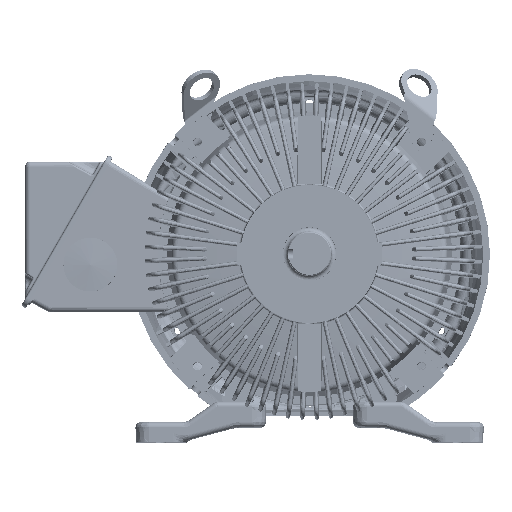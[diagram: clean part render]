
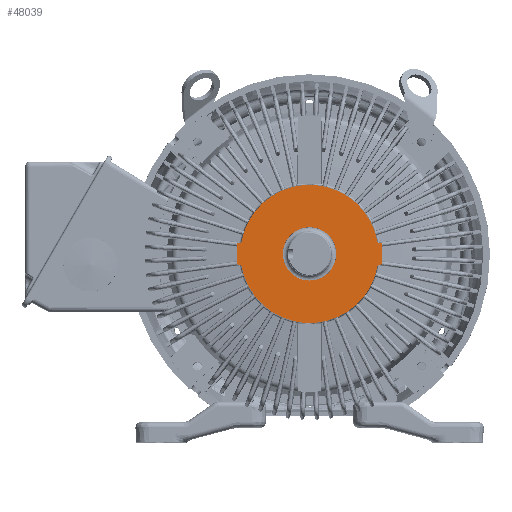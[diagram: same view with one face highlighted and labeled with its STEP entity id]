
A CAD part, top view. The second image highlights one B-rep face of the part: STEP entity #48039.
In plain terms, the highlighted planar face has unit normal (0, 0, 1) as drawn and (0, 0, -1) by its records, which use the part's own axes.
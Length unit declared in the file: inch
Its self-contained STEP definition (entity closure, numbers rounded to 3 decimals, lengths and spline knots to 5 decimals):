
#15194=CARTESIAN_POINT('',(0.,0.,-1.656));
#15195=DIRECTION('',(0.,0.,1.));
#15196=DIRECTION('',(0.,1.,0.));
#15197=AXIS2_PLACEMENT_3D('',#15194,#15195,#15196);
#15199=CARTESIAN_POINT('',(0.,0.,-1.656));
#15200=DIRECTION('',(0.,0.,1.));
#15201=DIRECTION('',(0.,-1.,0.));
#15202=AXIS2_PLACEMENT_3D('',#15199,#15200,#15201);
#15386=CARTESIAN_POINT('',(0.,0.,-1.656));
#15387=DIRECTION('',(0.,0.,-1.));
#15388=DIRECTION('',(-0.987,0.159,0.));
#15389=AXIS2_PLACEMENT_3D('',#15386,#15387,#15388);
#15755=CARTESIAN_POINT('',(0.,0.,-1.656));
#15756=DIRECTION('',(0.,0.,-1.));
#15757=DIRECTION('',(0.987,-0.159,0.));
#15758=AXIS2_PLACEMENT_3D('',#15755,#15756,#15757);
#33701=CARTESIAN_POINT('',(-2.53013,-0.406,
-1.656));
#33703=DIRECTION('',(1.,0.,0.));
#33704=VECTOR('',#33703,0.09487);
#33705=CARTESIAN_POINT('',(-2.625,-0.406,-1.656));
#33706=LINE('',#33705,#33704);
#33755=DIRECTION('',(0.,-1.,0.));
#33756=VECTOR('',#33755,0.687);
#33757=CARTESIAN_POINT('',(-2.688,0.344,-1.656));
#33758=LINE('',#33757,#33756);
#33789=DIRECTION('',(-1.,0.,0.));
#33790=VECTOR('',#33789,0.09503);
#33791=CARTESIAN_POINT('',(-2.52997,0.407,
-1.656));
#33792=LINE('',#33791,#33790);
#33793=CARTESIAN_POINT('',(-2.52997,0.407,
-1.656));
#33817=CARTESIAN_POINT('',(-2.625,0.344,-1.656));
#33818=DIRECTION('',(0.,0.,1.));
#33819=DIRECTION('',(0.,1.,0.));
#33820=AXIS2_PLACEMENT_3D('',#33817,#33818,#33819);
#34173=CARTESIAN_POINT('',(-2.625,-0.343,-1.656));
#34174=DIRECTION('',(0.,0.,1.));
#34175=DIRECTION('',(-1.,0.,0.));
#34176=AXIS2_PLACEMENT_3D('',#34173,#34174,#34175);
#38921=CARTESIAN_POINT('',(2.53013,0.406,
-1.656));
#38923=DIRECTION('',(-1.,0.,0.));
#38924=VECTOR('',#38923,0.09487);
#38925=CARTESIAN_POINT('',(2.625,0.406,-1.656));
#38926=LINE('',#38925,#38924);
#38958=CARTESIAN_POINT('',(2.625,0.343,-1.656));
#38959=DIRECTION('',(0.,0.,1.));
#38960=DIRECTION('',(1.,0.,0.));
#38961=AXIS2_PLACEMENT_3D('',#38958,#38959,#38960);
#38996=DIRECTION('',(0.,-1.,0.));
#38997=VECTOR('',#38996,0.687);
#38998=CARTESIAN_POINT('',(2.688,0.343,-1.656));
#38999=LINE('',#38998,#38997);
#39031=CARTESIAN_POINT('',(2.625,-0.344,-1.656));
#39032=DIRECTION('',(0.,0.,1.));
#39033=DIRECTION('',(0.,-1.,0.));
#39034=AXIS2_PLACEMENT_3D('',#39031,#39032,#39033);
#39050=DIRECTION('',(1.,0.,0.));
#39051=VECTOR('',#39050,0.09503);
#39052=CARTESIAN_POINT('',(2.52997,-0.407,
-1.656));
#39053=LINE('',#39052,#39051);
#39054=CARTESIAN_POINT('',(2.52997,-0.407,
-1.656));
#45004=CARTESIAN_POINT('',(2.688,0.343,-1.656));
#45005=CARTESIAN_POINT('',(2.688,-0.344,-1.656));
#45006=VERTEX_POINT('',#45004);
#45007=VERTEX_POINT('',#45005);
#45008=CARTESIAN_POINT('',(2.625,-0.407,-1.656));
#45009=VERTEX_POINT('',#45008);
#45010=CARTESIAN_POINT('',(2.625,0.406,-1.656));
#45011=VERTEX_POINT('',#45010);
#45012=VERTEX_POINT('',#39054);
#45015=VERTEX_POINT('',#38921);
#45016=CARTESIAN_POINT('',(-2.625,0.407,-1.656));
#45017=CARTESIAN_POINT('',(-2.688,0.344,-1.656));
#45018=VERTEX_POINT('',#45016);
#45019=VERTEX_POINT('',#45017);
#45020=CARTESIAN_POINT('',(-2.688,-0.343,-1.656));
#45021=VERTEX_POINT('',#45020);
#45022=CARTESIAN_POINT('',(-2.625,-0.406,-1.656));
#45023=VERTEX_POINT('',#45022);
#45024=VERTEX_POINT('',#33793);
#45027=VERTEX_POINT('',#33701);
#47934=CARTESIAN_POINT('',(0.,0.99,-1.656));
#47935=CARTESIAN_POINT('',(0.,-0.99,-1.656));
#47936=VERTEX_POINT('',#47934);
#47937=VERTEX_POINT('',#47935);
#48002=CARTESIAN_POINT('',(0.,0.,-1.656));
#48003=DIRECTION('',(0.,0.,-1.));
#48004=DIRECTION('',(0.,-1.,0.));
#48005=AXIS2_PLACEMENT_3D('',#48002,#48003,#48004);
#48006=PLANE('',#48005);
#48008=ORIENTED_EDGE('',*,*,#48007,.F.);
#48010=ORIENTED_EDGE('',*,*,#48009,.T.);
#48012=ORIENTED_EDGE('',*,*,#48011,.T.);
#48014=ORIENTED_EDGE('',*,*,#48013,.T.);
#48016=ORIENTED_EDGE('',*,*,#48015,.T.);
#48018=ORIENTED_EDGE('',*,*,#48017,.T.);
#48020=ORIENTED_EDGE('',*,*,#48019,.F.);
#48022=ORIENTED_EDGE('',*,*,#48021,.T.);
#48024=ORIENTED_EDGE('',*,*,#48023,.T.);
#48026=ORIENTED_EDGE('',*,*,#48025,.F.);
#48028=ORIENTED_EDGE('',*,*,#48027,.T.);
#48030=ORIENTED_EDGE('',*,*,#48029,.T.);
#48031=EDGE_LOOP('',(#48008,#48010,#48012,#48014,#48016,#48018,#48020,#48022,
#48024,#48026,#48028,#48030));
#48032=FACE_OUTER_BOUND('',#48031,.F.);
#48034=ORIENTED_EDGE('',*,*,#48033,.F.);
#48036=ORIENTED_EDGE('',*,*,#48035,.F.);
#48037=EDGE_LOOP('',(#48034,#48036));
#48038=FACE_BOUND('',#48037,.F.);
#48039=ADVANCED_FACE('',(#48032,#48038),#48006,.T.);
#15198=CIRCLE('',#15197,0.99);
#15203=CIRCLE('',#15202,0.99);
#15390=CIRCLE('',#15389,2.5625);
#15759=CIRCLE('',#15758,2.5625);
#33821=CIRCLE('',#33820,0.063);
#34177=CIRCLE('',#34176,0.063);
#38962=CIRCLE('',#38961,0.063);
#39035=CIRCLE('',#39034,0.063);
#48007=EDGE_CURVE('',#45024,#45015,#15390,.T.);
#48009=EDGE_CURVE('',#45024,#45018,#33792,.T.);
#48011=EDGE_CURVE('',#45018,#45019,#33821,.T.);
#48013=EDGE_CURVE('',#45019,#45021,#33758,.T.);
#48015=EDGE_CURVE('',#45021,#45023,#34177,.T.);
#48017=EDGE_CURVE('',#45023,#45027,#33706,.T.);
#48019=EDGE_CURVE('',#45012,#45027,#15759,.T.);
#48021=EDGE_CURVE('',#45012,#45009,#39053,.T.);
#48023=EDGE_CURVE('',#45009,#45007,#39035,.T.);
#48025=EDGE_CURVE('',#45006,#45007,#38999,.T.);
#48027=EDGE_CURVE('',#45006,#45011,#38962,.T.);
#48029=EDGE_CURVE('',#45011,#45015,#38926,.T.);
#48033=EDGE_CURVE('',#47936,#47937,#15198,.T.);
#48035=EDGE_CURVE('',#47937,#47936,#15203,.T.);
